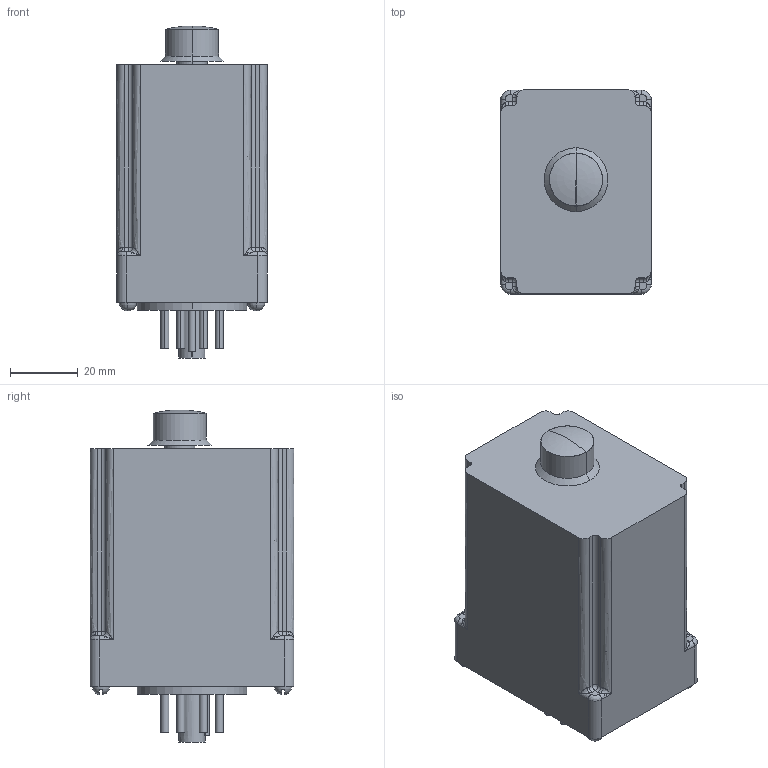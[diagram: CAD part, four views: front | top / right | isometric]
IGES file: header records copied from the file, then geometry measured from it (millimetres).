
Start section:  PTC IGES file: c-4-1393136-2-14-3d.igs
Global section: file name: c-4-1393136-2-14-3d.igs; native system: Creo Parametric by PTC Inc.; preprocessor: 2015200; author: workeradm; organization: Unknown; units: millimetre
Bounding box: 44.5 x 60.4 x 98.3 mm (x, y, z)
Surface area: 21758.4 mm2 (no closed solid volume)
Topology: 0 solids, 0 shells, 214 faces, 1060 edges, 1058 vertices
Faces by surface type: bspline 129, revolution 85
